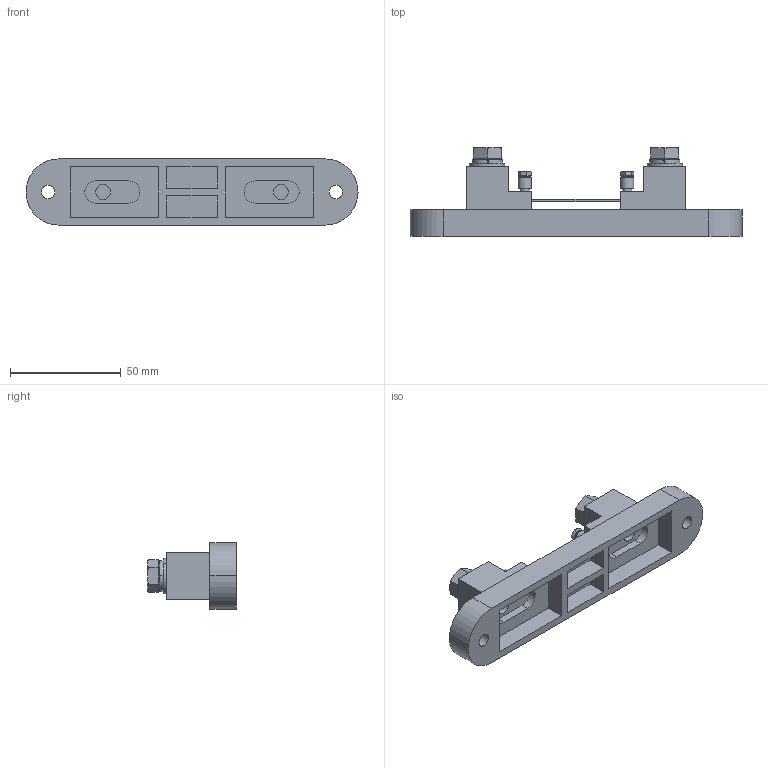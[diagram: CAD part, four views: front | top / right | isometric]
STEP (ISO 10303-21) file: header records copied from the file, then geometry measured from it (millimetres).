
FILE_DESCRIPTION (( 'STEP AP203' ), '1' );
FILE_NAME ('RTCS0050B050Z00.STEP', '2023-12-13T07:12:23', ( 'meks@163.com' ), ( '' ), 'SwSTEP 2.0', 'SolidWorks 2020', '' );
FILE_SCHEMA (( 'CONFIG_CONTROL_DESIGN' ));
Length unit declared in the file: millimetre
Products named in the file (9): 價釱; RCBS 200菁釱; hexagon head bolts-full thread gb_GB_FASTENER_BOLT_STBAB A M3X6-S; 萇郯极; plain washers--product grade c gb_GB_FASTENER_WASHER_SMWC 8; RTCS0050B050Z00; single coil lock washers light type gb_GB_FASTENER_WASHER_SSWL 8; single coil lock washers light type gb_GB_FASTENER_WASHER_SSWL 3; hexagon head bolts-full thread gb_GB_FASTENER_BOLT_STBAB A M8X20-S
Assembly tree (14 placements, depth 2):
  RTCS0050B050Z00
    萇郯极
    價釱  x2
    single coil lock washers light type gb_GB_FASTENER_WASHER_SSWL 8  x2
    hexagon head bolts-full thread gb_GB_FASTENER_BOLT_STBAB A M8X20-S  x2
    plain washers--product grade c gb_GB_FASTENER_WASHER_SMWC 8  x2
    hexagon head bolts-full thread gb_GB_FASTENER_BOLT_STBAB A M3X6-S  x2
    single coil lock washers light type gb_GB_FASTENER_WASHER_SSWL 3  x2
    RCBS 200菁釱
Bounding box: 150 x 40.15 x 30 mm (x, y, z)
Volume: 51775.9 mm3; surface area: 29485.5 mm2
Topology: 14 solids, 14 shells, 767 faces, 1629 edges, 904 vertices
Faces by surface type: cone 388, cylinder 237, plane 142
Entity records: 12090 total; most frequent: DIRECTION 2061, CARTESIAN_POINT 1971, ORIENTED_EDGE 1754, EDGE_CURVE 877, AXIS2_PLACEMENT_3D 805, VERTEX_POINT 495, LINE 451, VECTOR 451
